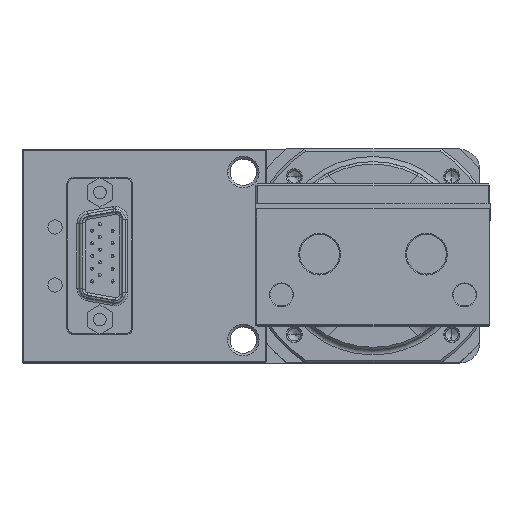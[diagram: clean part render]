
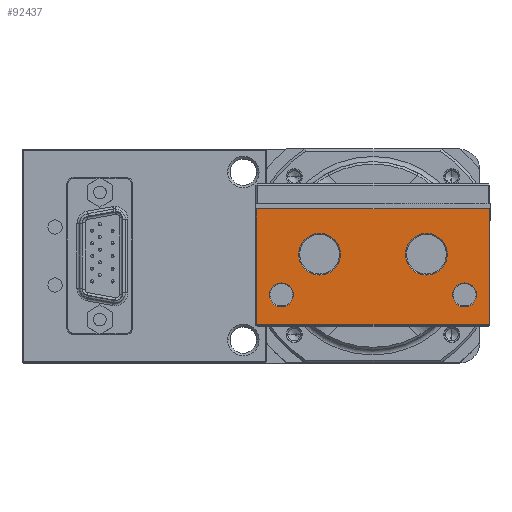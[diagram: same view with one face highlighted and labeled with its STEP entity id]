
A CAD part, top view. The second image highlights one B-rep face of the part: STEP entity #92437.
In plain terms, the highlighted planar face has unit normal (0, 0, 1).
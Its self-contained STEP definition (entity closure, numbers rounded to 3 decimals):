
#444 = EDGE_LOOP ( 'NONE', ( #84564, #43610, #10815, #65503 ) ) ;
#1146 = CARTESIAN_POINT ( 'NONE',  ( -22.9, 0., 134. ) ) ;
#2582 = CIRCLE ( 'NONE', #38640, 2.35 ) ;
#2648 = VERTEX_POINT ( 'NONE', #31410 ) ;
#3119 = EDGE_CURVE ( 'NONE', #21225, #25408, #19880, .T. ) ;
#3980 = CARTESIAN_POINT ( 'NONE',  ( -23., 0., 134. ) ) ;
#6413 = CARTESIAN_POINT ( 'NONE',  ( 15.65, 6., 134. ) ) ;
#7095 = DIRECTION ( 'NONE',  ( -1., 0., 0. ) ) ;
#7112 = CARTESIAN_POINT ( 'NONE',  ( -10.5, 14., 134. ) ) ;
#7747 = EDGE_CURVE ( 'NONE', #25408, #58573, #8939, .T. ) ;
#8939 = LINE ( 'NONE', #15350, #29421 ) ;
#10815 = ORIENTED_EDGE ( 'NONE', *, *, #7747, .T. ) ;
#12559 = DIRECTION ( 'NONE',  ( 0., 0., -1. ) ) ;
#12748 = DIRECTION ( 'NONE',  ( 0., 0., -1. ) ) ;
#14560 = ORIENTED_EDGE ( 'NONE', *, *, #104837, .T. ) ;
#15350 = CARTESIAN_POINT ( 'NONE',  ( 23., 0.1, 134. ) ) ;
#15898 = DIRECTION ( 'NONE',  ( -1., 0., 0. ) ) ;
#15954 = VECTOR ( 'NONE', #7095, 1000. ) ;
#19880 = LINE ( 'NONE', #1146, #40450 ) ;
#19903 = ORIENTED_EDGE ( 'NONE', *, *, #66042, .T. ) ;
#21225 = VERTEX_POINT ( 'NONE', #22695 ) ;
#21661 = AXIS2_PLACEMENT_3D ( 'NONE', #3980, #12748, #73923 ) ;
#22367 = FACE_OUTER_BOUND ( 'NONE', #444, .T. ) ;
#22695 = CARTESIAN_POINT ( 'NONE',  ( -22.9, 22.9, 134. ) ) ;
#22780 = CARTESIAN_POINT ( 'NONE',  ( -14.6, 14., 134. ) ) ;
#23043 = VERTEX_POINT ( 'NONE', #6413 ) ;
#25408 = VERTEX_POINT ( 'NONE', #110944 ) ;
#25535 = EDGE_LOOP ( 'NONE', ( #106079, #86997 ) ) ;
#26928 = CARTESIAN_POINT ( 'NONE',  ( -23., 22.9, 134. ) ) ;
#28453 = CARTESIAN_POINT ( 'NONE',  ( 18., 6., 134. ) ) ;
#29208 = EDGE_CURVE ( 'NONE', #77356, #23043, #55291, .T. ) ;
#29421 = VECTOR ( 'NONE', #59292, 1000. ) ;
#29978 = VECTOR ( 'NONE', #55798, 1000. ) ;
#30863 = DIRECTION ( 'NONE',  ( 0., 0., -1. ) ) ;
#31410 = CARTESIAN_POINT ( 'NONE',  ( 6.4, 14., 134. ) ) ;
#31934 = DIRECTION ( 'NONE',  ( 0., 0., -1. ) ) ;
#32677 = CARTESIAN_POINT ( 'NONE',  ( -10.5, 14., 134. ) ) ;
#32881 = CIRCLE ( 'NONE', #64377, 2.35 ) ;
#34502 = AXIS2_PLACEMENT_3D ( 'NONE', #89416, #37021, #98190 ) ;
#34592 = CIRCLE ( 'NONE', #37005, 2.35 ) ;
#35685 = CARTESIAN_POINT ( 'NONE',  ( 14.6, 14., 134. ) ) ;
#37005 = AXIS2_PLACEMENT_3D ( 'NONE', #47592, #108805, #56373 ) ;
#37021 = DIRECTION ( 'NONE',  ( 0., 0., -1. ) ) ;
#37283 = DIRECTION ( 'NONE',  ( -1., 0., 0. ) ) ;
#38640 = AXIS2_PLACEMENT_3D ( 'NONE', #28453, #89680, #37283 ) ;
#39178 = LINE ( 'NONE', #26928, #15954 ) ;
#40450 = VECTOR ( 'NONE', #44703, 1000. ) ;
#41472 = DIRECTION ( 'NONE',  ( -1., 0., 0. ) ) ;
#42848 = EDGE_CURVE ( 'NONE', #82916, #21225, #39178, .T. ) ;
#43610 = ORIENTED_EDGE ( 'NONE', *, *, #3119, .T. ) ;
#44703 = DIRECTION ( 'NONE',  ( 0., -1., 0. ) ) ;
#46947 = EDGE_LOOP ( 'NONE', ( #58429, #57066 ) ) ;
#47252 = ORIENTED_EDGE ( 'NONE', *, *, #112676, .T. ) ;
#47592 = CARTESIAN_POINT ( 'NONE',  ( -18., 6., 134. ) ) ;
#51936 = CARTESIAN_POINT ( 'NONE',  ( 22.9, 22.9, 134. ) ) ;
#53224 = LINE ( 'NONE', #81838, #29978 ) ;
#54471 = AXIS2_PLACEMENT_3D ( 'NONE', #83250, #30863, #92067 ) ;
#55291 = CIRCLE ( 'NONE', #60532, 2.35 ) ;
#55400 = CIRCLE ( 'NONE', #89105, 4.1 ) ;
#55798 = DIRECTION ( 'NONE',  ( 0., 1., 0. ) ) ;
#56373 = DIRECTION ( 'NONE',  ( -1., 0., 0. ) ) ;
#56865 = ORIENTED_EDGE ( 'NONE', *, *, #64552, .T. ) ;
#56871 = VERTEX_POINT ( 'NONE', #60902 ) ;
#57066 = ORIENTED_EDGE ( 'NONE', *, *, #94149, .T. ) ;
#58429 = ORIENTED_EDGE ( 'NONE', *, *, #29208, .T. ) ;
#58573 = VERTEX_POINT ( 'NONE', #66253 ) ;
#59292 = DIRECTION ( 'NONE',  ( 1., 0., 0. ) ) ;
#60532 = AXIS2_PLACEMENT_3D ( 'NONE', #84308, #31934, #93133 ) ;
#60902 = CARTESIAN_POINT ( 'NONE',  ( -15.65, 6., 134. ) ) ;
#64377 = AXIS2_PLACEMENT_3D ( 'NONE', #64898, #12559, #73729 ) ;
#64552 = EDGE_CURVE ( 'NONE', #56871, #78645, #32881, .T. ) ;
#64898 = CARTESIAN_POINT ( 'NONE',  ( -18., 6., 134. ) ) ;
#65503 = ORIENTED_EDGE ( 'NONE', *, *, #65675, .T. ) ;
#65506 = CIRCLE ( 'NONE', #54471, 4.1 ) ;
#65675 = EDGE_CURVE ( 'NONE', #58573, #82916, #53224, .T. ) ;
#66042 = EDGE_CURVE ( 'NONE', #2648, #90896, #70983, .T. ) ;
#66253 = CARTESIAN_POINT ( 'NONE',  ( 22.9, 0.1, 134. ) ) ;
#68238 = DIRECTION ( 'NONE',  ( 0., 0., -1. ) ) ;
#68916 = FACE_BOUND ( 'NONE', #46947, .T. ) ;
#69959 = AXIS2_PLACEMENT_3D ( 'NONE', #7112, #68238, #15898 ) ;
#70099 = CARTESIAN_POINT ( 'NONE',  ( -6.4, 14., 134. ) ) ;
#70228 = CIRCLE ( 'NONE', #69959, 4.1 ) ;
#70983 = CIRCLE ( 'NONE', #34502, 4.1 ) ;
#72932 = EDGE_CURVE ( 'NONE', #73135, #104491, #70228, .T. ) ;
#73135 = VERTEX_POINT ( 'NONE', #70099 ) ;
#73729 = DIRECTION ( 'NONE',  ( -1., 0., 0. ) ) ;
#73923 = DIRECTION ( 'NONE',  ( -1., 0., 0. ) ) ;
#77356 = VERTEX_POINT ( 'NONE', #112845 ) ;
#78645 = VERTEX_POINT ( 'NONE', #98947 ) ;
#81838 = CARTESIAN_POINT ( 'NONE',  ( 22.9, 23., 134. ) ) ;
#82916 = VERTEX_POINT ( 'NONE', #51936 ) ;
#83250 = CARTESIAN_POINT ( 'NONE',  ( 10.5, 14., 134. ) ) ;
#84308 = CARTESIAN_POINT ( 'NONE',  ( 18., 6., 134. ) ) ;
#84564 = ORIENTED_EDGE ( 'NONE', *, *, #42848, .T. ) ;
#85810 = EDGE_LOOP ( 'NONE', ( #56865, #14560 ) ) ;
#86997 = ORIENTED_EDGE ( 'NONE', *, *, #90575, .T. ) ;
#89105 = AXIS2_PLACEMENT_3D ( 'NONE', #32677, #93873, #41472 ) ;
#89416 = CARTESIAN_POINT ( 'NONE',  ( 10.5, 14., 134. ) ) ;
#89489 = FACE_BOUND ( 'NONE', #25535, .T. ) ;
#89680 = DIRECTION ( 'NONE',  ( 0., 0., -1. ) ) ;
#90575 = EDGE_CURVE ( 'NONE', #104491, #73135, #55400, .T. ) ;
#90808 = PLANE ( 'NONE',  #21661 ) ;
#90896 = VERTEX_POINT ( 'NONE', #35685 ) ;
#92067 = DIRECTION ( 'NONE',  ( -1., 0., 0. ) ) ;
#92437 = ADVANCED_FACE ( 'NONE', ( #112743, #89489, #94997, #68916, #22367 ), #90808, .F. ) ;
#93133 = DIRECTION ( 'NONE',  ( -1., 0., 0. ) ) ;
#93873 = DIRECTION ( 'NONE',  ( 0., 0., -1. ) ) ;
#94149 = EDGE_CURVE ( 'NONE', #23043, #77356, #2582, .T. ) ;
#94997 = FACE_BOUND ( 'NONE', #85810, .T. ) ;
#98190 = DIRECTION ( 'NONE',  ( -1., 0., 0. ) ) ;
#98947 = CARTESIAN_POINT ( 'NONE',  ( -20.35, 6., 134. ) ) ;
#104491 = VERTEX_POINT ( 'NONE', #22780 ) ;
#104837 = EDGE_CURVE ( 'NONE', #78645, #56871, #34592, .T. ) ;
#106079 = ORIENTED_EDGE ( 'NONE', *, *, #72932, .T. ) ;
#108805 = DIRECTION ( 'NONE',  ( 0., 0., -1. ) ) ;
#109370 = EDGE_LOOP ( 'NONE', ( #47252, #19903 ) ) ;
#110944 = CARTESIAN_POINT ( 'NONE',  ( -22.9, 0.1, 134. ) ) ;
#112676 = EDGE_CURVE ( 'NONE', #90896, #2648, #65506, .T. ) ;
#112743 = FACE_BOUND ( 'NONE', #109370, .T. ) ;
#112845 = CARTESIAN_POINT ( 'NONE',  ( 20.35, 6., 134. ) ) ;
